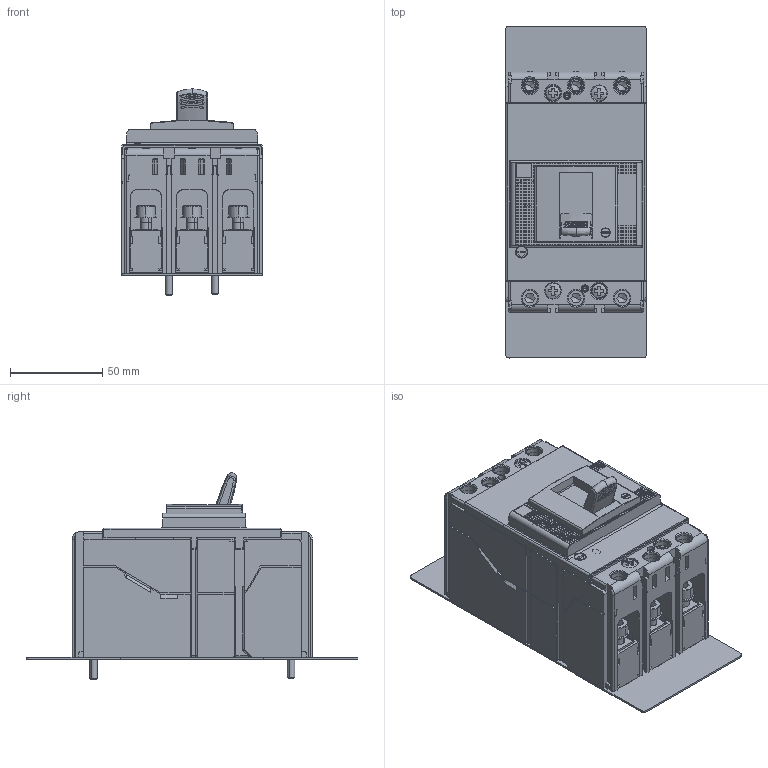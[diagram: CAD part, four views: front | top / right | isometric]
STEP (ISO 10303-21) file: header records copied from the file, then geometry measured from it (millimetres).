
FILE_DESCRIPTION((''),'2;1');
FILE_NAME('10000907495_ASM','2013-12-10T',('Knagaraj'),(''),'PRO/ENGINEER BY PARAMETRIC TECHNOLOGY CORPORATION, 2010140','PRO/ENGINEER BY PARAMETRIC TECHNOLOGY CORPORATION, 2010140','');
FILE_SCHEMA(('CONFIG_CONTROL_DESIGN'));
Products named in the file (13): 10000427928; 10000427929; 10000497119; 10000497120; 10000853625; 10000853626_ASM; 10000907489; 10000907490; 10000907491; 10000907492; 10000907493_ASM; 10000907494_ASM; 10000907495_ASM
Assembly tree (20 placements, depth 4):
  10000907495_ASM
    10000427928
    10000427929
    10000497119  x2
    10000497120  x2
    10000853626_ASM
      10000853625  x2
    10000907494_ASM  x6
      10000907489
      10000907490
      10000907493_ASM
        10000907491
        10000907492
Bounding box: 76.33 x 179.79 x 111.66 mm (x, y, z)
Surface area: 159214.1 mm2 (no closed solid volume)
Topology: 0 solids, 75 shells, 5790 faces, 15222 edges, 9795 vertices
Faces by surface type: plane 3930, cylinder 1378, torus 172, cone 136, sphere 107, bspline 49, extrusion 18
Entity records: 152677 total; most frequent: CARTESIAN_POINT 31604, ORIENTED_EDGE 25462, DIRECTION 24267, EDGE_CURVE 12736, VECTOR 9609, LINE 9591, VERTEX_POINT 8277, AXIS2_PLACEMENT_3D 7329
